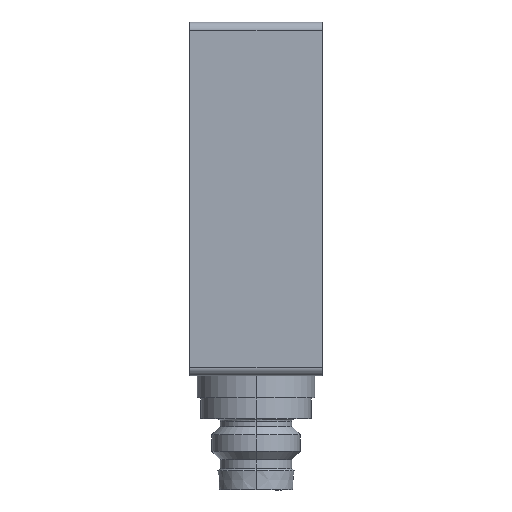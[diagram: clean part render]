
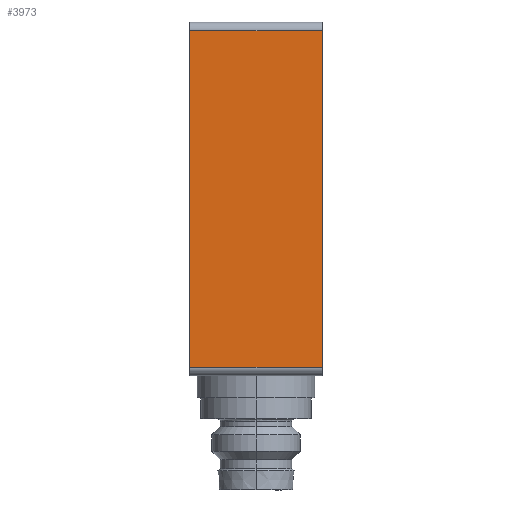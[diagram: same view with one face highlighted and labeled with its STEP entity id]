
A CAD part, left-side view. The second image highlights one B-rep face of the part: STEP entity #3973.
In plain terms, the highlighted planar face has unit normal (-1, 0, 0).
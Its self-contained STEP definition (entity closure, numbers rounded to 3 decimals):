
#3810=CARTESIAN_POINT('',(-10.7,-6.,31.3));
#3811=VERTEX_POINT('',#3810);
#3819=CARTESIAN_POINT('',(-10.7,-6.,0.8));
#3820=VERTEX_POINT('',#3819);
#3821=CARTESIAN_POINT('',(-10.7,-6.,0.8));
#3822=DIRECTION('',(0.0,0.0,1.0));
#3823=VECTOR('',#3822,30.5);
#3824=LINE('',#3821,#3823);
#3825=EDGE_CURVE('',#3820,#3811,#3824,.T.);
#3930=CARTESIAN_POINT('',(-10.7,6.,31.3));
#3931=VERTEX_POINT('',#3930);
#3939=CARTESIAN_POINT('',(-10.7,-6.,31.3));
#3940=DIRECTION('',(0.0,1.0,0.0));
#3941=VECTOR('',#3940,12.);
#3942=LINE('',#3939,#3941);
#3943=EDGE_CURVE('',#3811,#3931,#3942,.T.);
#3950=CARTESIAN_POINT('',(-10.7,0.0,31.3));
#3951=DIRECTION('',(-1.0,0.0,0.0));
#3952=DIRECTION('',(0.0,0.0,1.0));
#3953=AXIS2_PLACEMENT_3D('',#3950,#3951,#3952);
#3954=PLANE('',#3953);
#3955=CARTESIAN_POINT('',(-10.7,6.,0.8));
#3956=VERTEX_POINT('',#3955);
#3957=CARTESIAN_POINT('',(-10.7,6.,31.3));
#3958=DIRECTION('',(0.0,0.0,-1.0));
#3959=VECTOR('',#3958,30.5);
#3960=LINE('',#3957,#3959);
#3961=EDGE_CURVE('',#3931,#3956,#3960,.T.);
#3962=ORIENTED_EDGE('',*,*,#3961,.T.);
#3963=CARTESIAN_POINT('',(-10.7,-6.,0.8));
#3964=DIRECTION('',(0.0,1.0,0.0));
#3965=VECTOR('',#3964,12.);
#3966=LINE('',#3963,#3965);
#3967=EDGE_CURVE('',#3820,#3956,#3966,.T.);
#3968=ORIENTED_EDGE('',*,*,#3967,.F.);
#3969=ORIENTED_EDGE('',*,*,#3825,.T.);
#3970=ORIENTED_EDGE('',*,*,#3943,.T.);
#3971=EDGE_LOOP('',(#3962,#3968,#3969,#3970));
#3972=FACE_OUTER_BOUND('',#3971,.T.);
#3973=ADVANCED_FACE('',(#3972),#3954,.T.);
